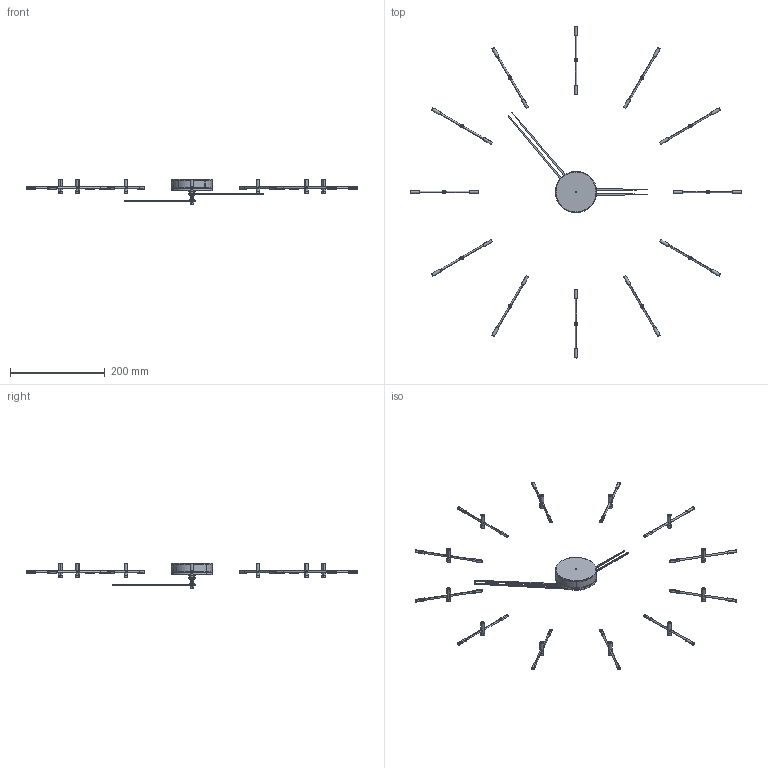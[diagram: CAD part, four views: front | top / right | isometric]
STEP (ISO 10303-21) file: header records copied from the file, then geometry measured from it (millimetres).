
FILE_DESCRIPTION (( 'STEP AP214' ), '1' );
FILE_NAME ('Mini Merlín_n.STEP', '2016-09-16T11:00:56', ( '' ), ( '' ), 'SwSTEP 2.0', 'SolidWorks 2013', '' );
FILE_SCHEMA (( 'AUTOMOTIVE_DESIGN' ));
Length unit declared in the file: millimetre
Products named in the file (23): Tuerca 1.5; Aguja_minutera_mini_merlín; Pieza_caja_superior; Pasante; Tuerca; Pieza_caja_inferior; Señal_horaria_mini merlín; Aguja_minutera; Arandela; Pieza2; Aguja_horaria; Mini Merlín_n; Mecanismo; Varilla_nogal_señal_horaria_mini merlín; Esparrago; Anclaje_señal_horaria_mini merlin; Aguja_horaria_mini_merlín; Caja_acero_inox; Embellecedor_señal_horaria_mini merlín; Embellecedor_mini_merlín; Casquillo_señal_horaria_mini merlín; Esparrago_roscado_mini merlin; Arandela_2
Assembly tree (34 placements, depth 3):
  Mini Merlín_n
    Aguja_horaria_mini_merlín
      Aguja_horaria
      Arandela_2
      Pasante
      Tuerca
    Señal_horaria_mini merlín  x12
      Anclaje_señal_horaria_mini merlin
      Casquillo_señal_horaria_mini merlín
      Embellecedor_señal_horaria_mini merlín
      Esparrago_roscado_mini merlin
      Varilla_nogal_señal_horaria_mini merlín
    Aguja_minutera_mini_merlín
      Aguja_minutera
      Esparrago
      Tuerca 1.5
      Arandela
      Embellecedor_mini_merlín
    Caja_acero_inox
      Pieza_caja_inferior
      Pieza_caja_superior
      Mecanismo
      Pieza2
Bounding box: 700.26 x 700.26 x 53.6 mm (x, y, z)
Volume: 110099.1 mm3; surface area: 123348.3 mm2
Topology: 85 solids, 85 shells, 649 faces, 1322 edges, 866 vertices
Faces by surface type: cylinder 366, plane 245, torus 26, cone 12
Entity records: 7032 total; most frequent: CARTESIAN_POINT 1200, DIRECTION 1192, ORIENTED_EDGE 904, AXIS2_PLACEMENT_3D 498, EDGE_CURVE 452, VERTEX_POINT 286, EDGE_LOOP 250, CIRCLE 244
